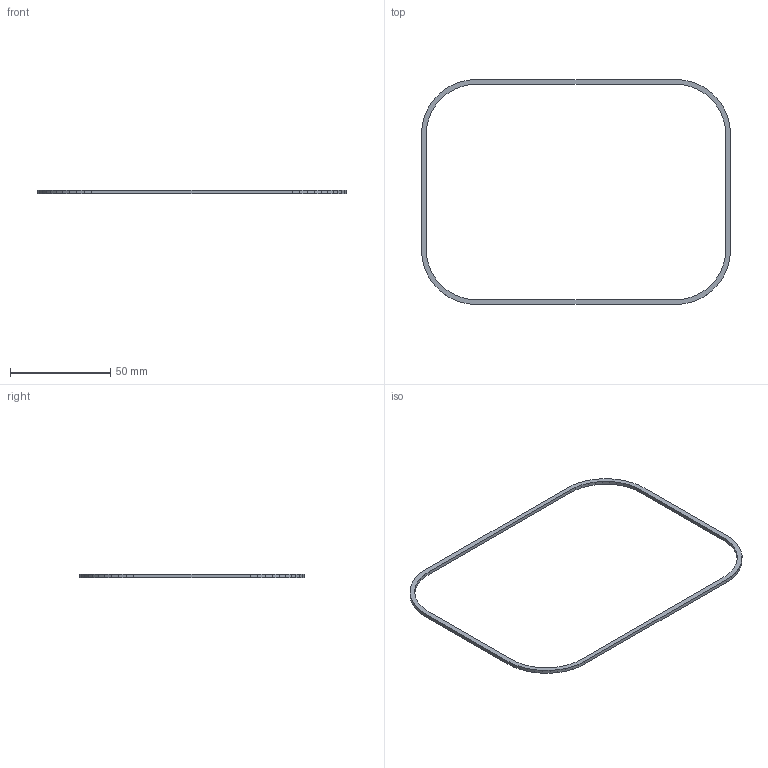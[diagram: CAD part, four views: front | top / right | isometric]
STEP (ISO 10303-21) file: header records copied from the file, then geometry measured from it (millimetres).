
FILE_DESCRIPTION(('Open CASCADE Model'),'2;1');
FILE_NAME('Open CASCADE Shape Model','2026-10-16T13:31:54',('Author'),( 'Open CASCADE'),'Open CASCADE STEP processor 7.9','Open CASCADE 7.9' ,'Unknown');
FILE_SCHEMA(('AUTOMOTIVE_DESIGN { 1 0 10303 214 1 1 1 1 }'));
Length unit declared in the file: millimetre
Products named in the file (1): Open CASCADE STEP translator 7.9 3
Bounding box: 154.4 x 112.4 x 1.7 mm (x, y, z)
Volume: 1953.5 mm3; surface area: 3927.6 mm2
Topology: 1 solids, 1 shells, 98 faces, 288 edges, 192 vertices
Faces by surface type: plane 98
Entity records: 6758 total; most frequent: CARTESIAN_POINT 1347, DIRECTION 870, LINE 672, VECTOR 672, ORIENTED_EDGE 576, PCURVE 576, DEFINITIONAL_REPRESENTATION 576, EDGE_CURVE 288
